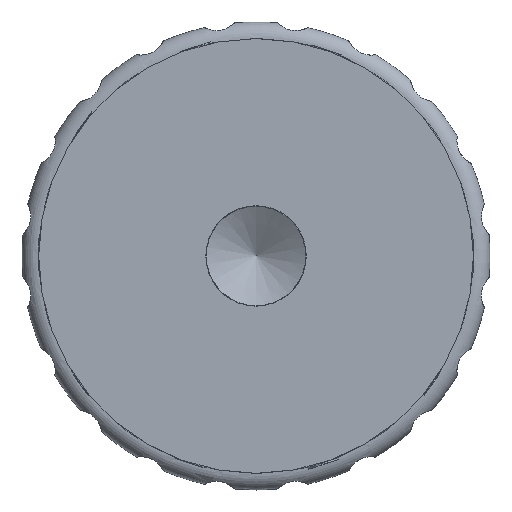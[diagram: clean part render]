
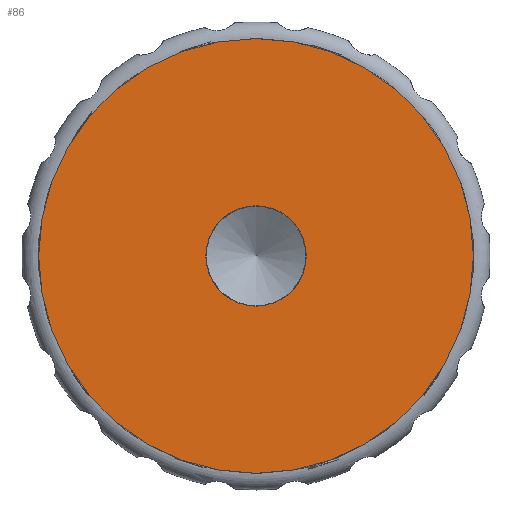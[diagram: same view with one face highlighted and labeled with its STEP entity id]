
A CAD part, left-side view. The second image highlights one B-rep face of the part: STEP entity #86.
In plain terms, the highlighted planar face has unit normal (-1, 0, 0).
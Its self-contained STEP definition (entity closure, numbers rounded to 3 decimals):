
#86 = ADVANCED_FACE( '', ( #439, #440 ), #441, .F. );
#439 = FACE_OUTER_BOUND( '', #1105, .T. );
#440 = FACE_BOUND( '', #1106, .T. );
#441 = PLANE( '', #1107 );
#1105 = EDGE_LOOP( '', ( #2011 ) );
#1106 = EDGE_LOOP( '', ( #2012 ) );
#1107 = AXIS2_PLACEMENT_3D( '', #2013, #2014, #2015 );
#2011 = ORIENTED_EDGE( '', *, *, #4336, .F. );
#2012 = ORIENTED_EDGE( '', *, *, #4461, .T. );
#2013 = CARTESIAN_POINT( '', ( 0., 3., 0. ) );
#2014 = DIRECTION( '', ( 1., 0., 0. ) );
#2015 = DIRECTION( '', ( 0., 0., -1. ) );
#4336 = EDGE_CURVE( '', #5242, #5242, #5243, .T. );
#4461 = EDGE_CURVE( '', #5492, #5492, #5493, .T. );
#5242 = VERTEX_POINT( '', #7233 );
#5243 = CIRCLE( '', #7234, 13. );
#5492 = VERTEX_POINT( '', #7679 );
#5493 = CIRCLE( '', #7680, 3. );
#7233 = CARTESIAN_POINT( '', ( 0., 0., -13. ) );
#7234 = AXIS2_PLACEMENT_3D( '', #9392, #9393, #9394 );
#7679 = CARTESIAN_POINT( '', ( 0., 0., -3. ) );
#7680 = AXIS2_PLACEMENT_3D( '', #9594, #9595, #9596 );
#9392 = CARTESIAN_POINT( '', ( 0., 0., 0. ) );
#9393 = DIRECTION( '', ( 1., 0., 0. ) );
#9394 = DIRECTION( '', ( 0., 0., -1. ) );
#9594 = CARTESIAN_POINT( '', ( 0., 0., 0. ) );
#9595 = DIRECTION( '', ( 1., 0., 0. ) );
#9596 = DIRECTION( '', ( 0., 0., -1. ) );
